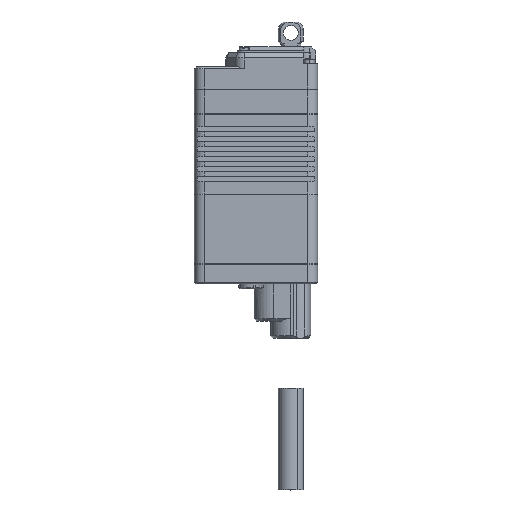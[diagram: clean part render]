
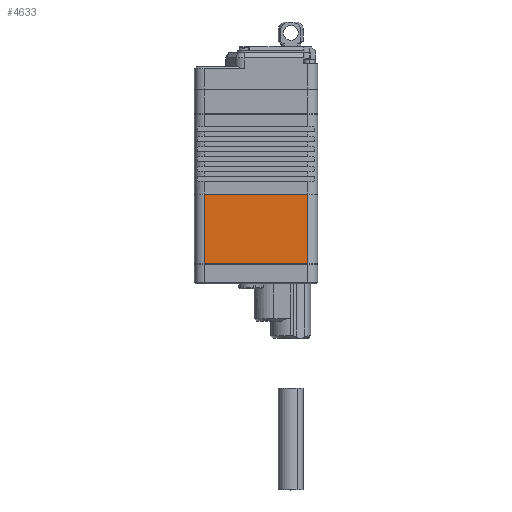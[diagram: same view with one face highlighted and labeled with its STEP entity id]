
A CAD part, top view. The second image highlights one B-rep face of the part: STEP entity #4633.
In plain terms, the highlighted planar face has unit normal (0, 0, 1).
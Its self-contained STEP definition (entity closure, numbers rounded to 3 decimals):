
#11 = DIRECTION ( 'NONE',  ( 0., 1., 0. ) ) ;
#129 = CARTESIAN_POINT ( 'NONE',  ( 10.4, -16.05, 5.4 ) ) ;
#740 = ORIENTED_EDGE ( 'NONE', *, *, #4029, .T. ) ;
#749 = LINE ( 'NONE', #7476, #11675 ) ;
#1947 = CARTESIAN_POINT ( 'NONE',  ( -10.4, -2.15, 5.4 ) ) ;
#2019 = EDGE_LOOP ( 'NONE', ( #8574, #6159, #740, #5677 ) ) ;
#2239 = CARTESIAN_POINT ( 'NONE',  ( -10.4, -2.15, 5.4 ) ) ;
#3050 = LINE ( 'NONE', #2239, #9681 ) ;
#3205 = CARTESIAN_POINT ( 'NONE',  ( 10.4, -2.15, 5.4 ) ) ;
#3307 = LINE ( 'NONE', #5146, #7838 ) ;
#3671 = VERTEX_POINT ( 'NONE', #1947 ) ;
#4029 = EDGE_CURVE ( 'NONE', #3671, #9113, #3307, .T. ) ;
#4126 = LINE ( 'NONE', #6959, #5382 ) ;
#4519 = FACE_OUTER_BOUND ( 'NONE', #2019, .T. ) ;
#4633 = ADVANCED_FACE ( 'NONE', ( #4519 ), #9276, .F. ) ;
#5146 = CARTESIAN_POINT ( 'NONE',  ( -10.4, -1.1, 5.4 ) ) ;
#5230 = VERTEX_POINT ( 'NONE', #3205 ) ;
#5382 = VECTOR ( 'NONE', #7222, 1000. ) ;
#5677 = ORIENTED_EDGE ( 'NONE', *, *, #11631, .T. ) ;
#6159 = ORIENTED_EDGE ( 'NONE', *, *, #7285, .T. ) ;
#6433 = CARTESIAN_POINT ( 'NONE',  ( 12.4, -1.1, 5.4 ) ) ;
#6959 = CARTESIAN_POINT ( 'NONE',  ( 10.4, -16.05, 5.4 ) ) ;
#7072 = DIRECTION ( 'NONE',  ( 0., -1., 0. ) ) ;
#7222 = DIRECTION ( 'NONE',  ( 1., 0., 0. ) ) ;
#7285 = EDGE_CURVE ( 'NONE', #5230, #3671, #3050, .T. ) ;
#7476 = CARTESIAN_POINT ( 'NONE',  ( 10.4, -1.1, 5.4 ) ) ;
#7740 = DIRECTION ( 'NONE',  ( -1., 0., 0. ) ) ;
#7838 = VECTOR ( 'NONE', #7072, 1000. ) ;
#8304 = DIRECTION ( 'NONE',  ( 0., 0., -1. ) ) ;
#8574 = ORIENTED_EDGE ( 'NONE', *, *, #10056, .T. ) ;
#9113 = VERTEX_POINT ( 'NONE', #10060 ) ;
#9276 = PLANE ( 'NONE',  #10263 ) ;
#9422 = VERTEX_POINT ( 'NONE', #129 ) ;
#9681 = VECTOR ( 'NONE', #7740, 1000. ) ;
#10056 = EDGE_CURVE ( 'NONE', #9422, #5230, #749, .T. ) ;
#10060 = CARTESIAN_POINT ( 'NONE',  ( -10.4, -16.05, 5.4 ) ) ;
#10263 = AXIS2_PLACEMENT_3D ( 'NONE', #6433, #8304, #12046 ) ;
#11631 = EDGE_CURVE ( 'NONE', #9113, #9422, #4126, .T. ) ;
#11675 = VECTOR ( 'NONE', #11, 1000. ) ;
#12046 = DIRECTION ( 'NONE',  ( -1., 0., 0. ) ) ;
